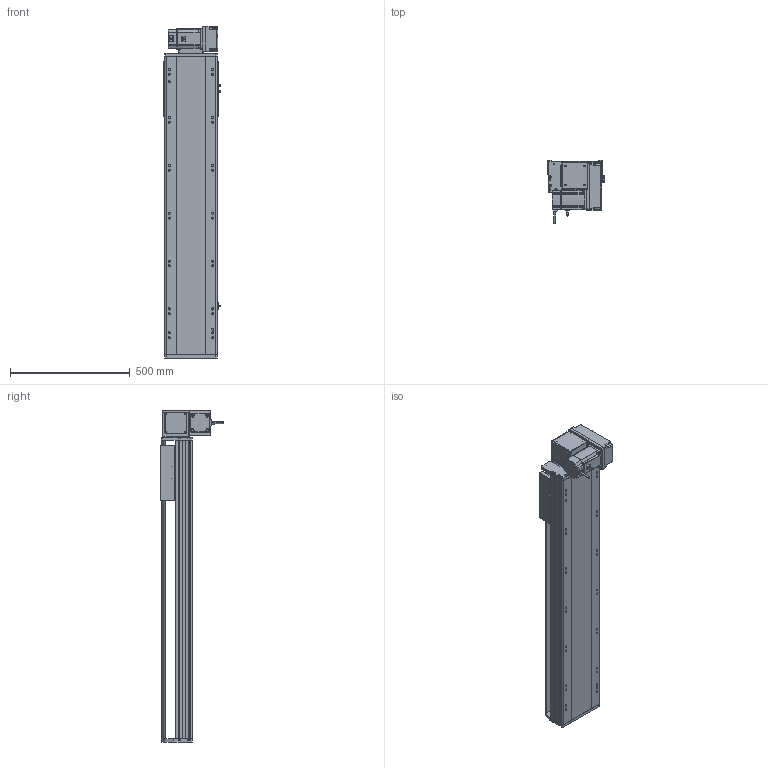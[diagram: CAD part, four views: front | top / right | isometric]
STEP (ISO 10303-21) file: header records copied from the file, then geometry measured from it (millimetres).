
FILE_DESCRIPTION (( 'STEP AP214' ), '1' );
FILE_NAME ('RTB22S-XX-900-RM-M75-C4.STEP', '2025-12-12T07:46:26', ( '' ), ( '' ), 'SwSTEP 2.0', 'SolidWorks 2018', '' );
FILE_SCHEMA (( 'AUTOMOTIVE_DESIGN' ));
Length unit declared in the file: millimetre
Products named in the file (14): RTB22S-GY-005P^RTB22S-RM-々湍釱蚾饜_RTB22S-XX-XX-RM-M75-C4; RTB22S-L-004賑釱^RTB22S-XX-XX-RM-M75-C4; RTB22S-GY-008-M75--萇儂啣^RTB22S-RM-々湍釱蚾饜_RTB22S-XX-XX-RM-M75-C4; RTB22S-XX-900-RM-M75-C4; 750W萇儂^RTB22S-XX-XX-RM-M75-C4; OMRON EE-SX672 传感器^RTB22S-XX-XX-RM-M75-C4; RTB22S-GY-017P^RTB22S-RM-々湍釱蚾饜_RTB22S-XX-XX-RM-M75-C4; RTH22-GY-013外置感应片^RTB22S-XX-XX-RM-M75-C4; RTB22S-GY-014--々湍釱^RTB22S-RM-々湍釱蚾饜_RTB22S-XX-XX-RM-M75-C4; RTB22S-L-011菁釱^RTB22S-XX-XX-RM-M75-C4; RTB22S-GY-007奻裔^RTB22S-XX-XX-RM-M75-C4; RTB22S-RM-々湍釱蚾饜^RTB22S-XX-XX-RM-M75-C4; RTB22S-GY-001耜裔^RTB22S-XX-XX-RM-M75-C4; RTB22S-GY-018P^RTB22S-RM-々湍釱蚾饜_RTB22S-XX-XX-RM-M75-C4
Assembly tree (16 placements, depth 3):
  RTB22S-XX-900-RM-M75-C4
    RTB22S-L-011菁釱^RTB22S-XX-XX-RM-M75-C4
    RTB22S-GY-001耜裔^RTB22S-XX-XX-RM-M75-C4
    750W萇儂^RTB22S-XX-XX-RM-M75-C4
    RTB22S-GY-007奻裔^RTB22S-XX-XX-RM-M75-C4
    RTB22S-L-004賑釱^RTB22S-XX-XX-RM-M75-C4
    RTH22-GY-013外置感应片^RTB22S-XX-XX-RM-M75-C4
    OMRON EE-SX672 传感器^RTB22S-XX-XX-RM-M75-C4  x3
    RTB22S-RM-々湍釱蚾饜^RTB22S-XX-XX-RM-M75-C4
      RTB22S-GY-014--々湍釱^RTB22S-RM-々湍釱蚾饜_RTB22S-XX-XX-RM-M75-C4
      RTB22S-GY-017P^RTB22S-RM-々湍釱蚾饜_RTB22S-XX-XX-RM-M75-C4  x2
      RTB22S-GY-005P^RTB22S-RM-々湍釱蚾饜_RTB22S-XX-XX-RM-M75-C4
      RTB22S-GY-008-M75--萇儂啣^RTB22S-RM-々湍釱蚾饜_RTB22S-XX-XX-RM-M75-C4
      RTB22S-GY-018P^RTB22S-RM-々湍釱蚾饜_RTB22S-XX-XX-RM-M75-C4
Bounding box: 238.5 x 264.7 x 1387.5 mm (x, y, z)
Volume: 20122951.7 mm3; surface area: 2100201.6 mm2
Topology: 15 solids, 15 shells, 1965 faces, 5336 edges, 3422 vertices
Faces by surface type: plane 913, cylinder 610, bspline 296, cone 134, sphere 8, torus 4
Entity records: 52110 total; most frequent: CARTESIAN_POINT 15024, ORIENTED_EDGE 7468, DIRECTION 7168, EDGE_CURVE 3734, AXIS2_PLACEMENT_3D 2522, VERTEX_POINT 2426, LINE 2124, VECTOR 2124
